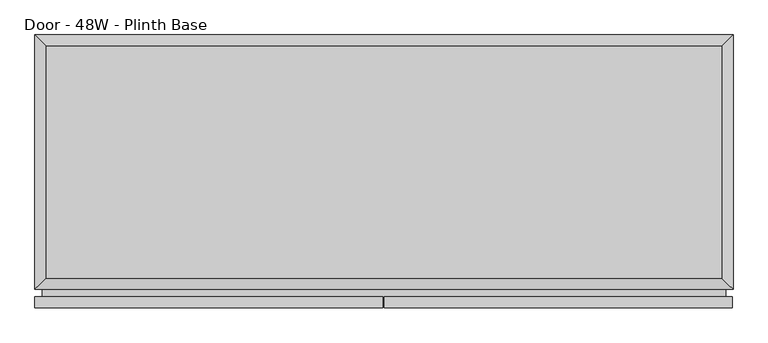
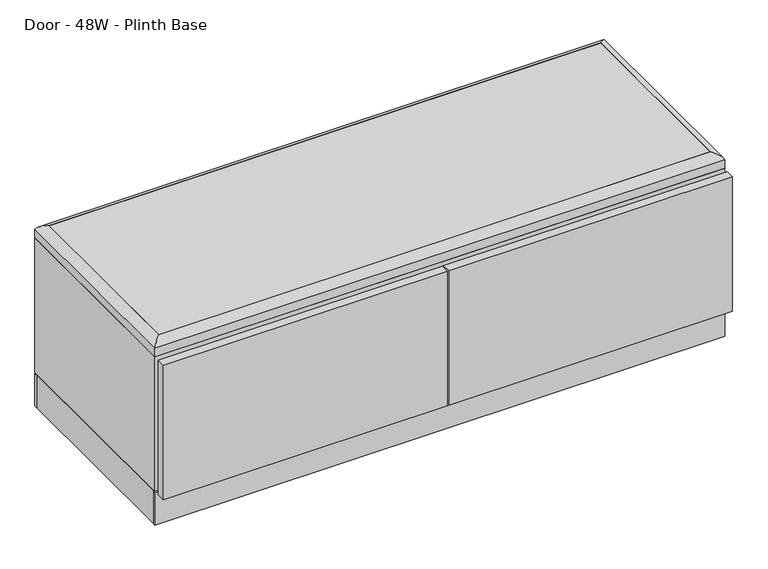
"""IFC4 building model written with IfcOpenShell, lengths in millimetres: furniture geometry, Steelcase Coalesse - Exponents - Seating - Bench : Door - 48W - Plinth Base."""

from ifc_helpers import new_model, si_unit, frame, origin, place, context, project, spatial, polyline, ellipse_curve, outline, extrude, faceted_brep, source, transform, mapped, element, save
from ifc_brep_helpers import plane_surface, cylinder_surface, advanced_brep


def door_48w_plinth_base_4b53b409(model_context):
    return source(origin(), model_context, "Body", "SolidModel", [
        extrude(outline(polyline([(1217.8284, 0.0), (1217.8284, -19.05), (610.4382, -19.05), (610.4382, 0.0), (1217.8284, 0.0)])), frame((0.0, 0.0, 82.55), z_axis=(0.0, 0.0, 1.0), x_axis=(1.0, 0.0, 0.0)), (0.0, 0.0, 1.0), 304.8),
        extrude(outline(polyline([(607.3902, 0.0), (607.3902, -19.05), (0.0, -19.05), (0.0, 0.0), (607.3902, 0.0)])), frame((0.0, 0.0, 82.55), z_axis=(0.0, 0.0, 1.0), x_axis=(1.0, 0.0, 0.0)), (0.0, 0.0, 1.0), 304.8),
        advanced_brep(
        [(0.0, 12.7, 406.6283237), (0.0, 12.7, 387.35), (1219.2, 12.7, 387.35), (1219.2, 12.7, 406.6283237), (1219.2, 457.2, 406.6283237), (1219.2, 457.2, 387.35), (0.0, 457.2, 387.35), (0.0, 457.2, 406.6283237), (1200.15, 31.75, 406.6283237), (1200.15, 438.15, 406.6283237), (19.05, 438.15, 406.6283237), (19.05, 31.75, 406.6283237), (1200.15, 438.15, 419.0696271), (1200.15, 31.75, 419.0696271), (19.05, 31.75, 419.0696271), (19.05, 438.15, 419.0696271)],
        [
            (0, 1),
            (1, 2),
            (2, 3),
            (3, 0),
            (4, 5),
            (5, 6),
            (6, 7),
            (7, 4),
            (8, 9),
            (9, 10),
            (10, 11),
            (11, 8),
            (0, 7),
            (6, 1),
            (5, 2),
            (4, 3),
            (12, 9),
            (8, 13),
            (13, 12),
            (13, 3, ellipse_curve(frame((1198.5973666, 33.3026334, 395.8870134), z_axis=(0.7071067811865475, 0.7071067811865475, 0.0), x_axis=(-0.7071067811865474, 0.7071067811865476, 0.0)), 32.8586138, 23.2345486)),
            (4, 12, ellipse_curve(frame((1198.5973666, 436.5973666, 395.8870134), z_axis=(0.7071067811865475, -0.7071067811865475, 0.0), x_axis=(0.7071067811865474, 0.7071067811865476, 0.0)), 32.8586138, 23.2345486)),
            (11, 14),
            (14, 13),
            (14, 0, ellipse_curve(frame((20.6026334, 33.3026334, 395.8870134), z_axis=(0.7071067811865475, -0.7071067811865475, 0.0), x_axis=(0.7071067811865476, 0.7071067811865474, 0.0)), 32.8586138, 23.2345486)),
            (10, 15),
            (15, 14),
            (15, 7, ellipse_curve(frame((20.6026334, 436.5973666, 395.8870134), z_axis=(-0.7071067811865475, -0.7071067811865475, 0.0), x_axis=(0.7071067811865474, -0.7071067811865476, 0.0)), 32.8586138, 23.2345486)),
            (12, 15),
        ],
        [
            plane_surface(frame((0.0, 12.7, 406.6283237), z_axis=(0.0, -1.0, 0.0), x_axis=(-1.0, 0.0, 0.0))),
            plane_surface(frame((0.0, 457.2, 406.6283237), z_axis=(0.0, 1.0, 0.0), x_axis=(1.0, 0.0, 0.0))),
            plane_surface(frame((1219.2, 12.7, 406.6283237), z_axis=(0.0, 0.0, 1.0), x_axis=(0.0, 1.0, 0.0))),
            plane_surface(frame((0.0, 12.7, 406.6283237), z_axis=(-1.0, 0.0, 1.9588398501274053e-12), x_axis=(0.0, 1.0, 0.0))),
            plane_surface(frame((0.0, 12.7, 387.35), z_axis=(0.0, 0.0, -1.0), x_axis=(0.0, 1.0, 0.0))),
            plane_surface(frame((1219.2, 12.7, 387.35), z_axis=(1.0, 0.0, 0.0), x_axis=(0.0, 1.0, 0.0))),
            plane_surface(frame((1200.15, 438.15, 406.6284102), z_axis=(-1.0, 0.0, 0.0), x_axis=(0.0, -1.0, 0.0))),
            cylinder_surface(frame((1198.5973666, 457.2, 395.8870134), z_axis=(0.0, 1.0, 0.0), x_axis=(1.0, 0.0, 0.0)), 23.2345486),
            plane_surface(frame((1200.15, 31.75, 406.6284102), z_axis=(0.0, 1.0, 0.0), x_axis=(-1.0, 0.0, 0.0))),
            cylinder_surface(frame((1219.2, 33.3026334, 395.8870134), z_axis=(1.0, 0.0, 0.0), x_axis=(0.0, -1.0, 0.0)), 23.2345486),
            plane_surface(frame((19.05, 31.75, 406.6284102), z_axis=(1.0, 0.0, 0.0), x_axis=(0.0, 1.0, 0.0))),
            cylinder_surface(frame((20.6026334, 12.7, 395.8870134), z_axis=(0.0, -1.0, 0.0), x_axis=(-1.0, 0.0, 0.0)), 23.2345486),
            plane_surface(frame((19.05, 438.15, 406.6284102), z_axis=(0.0, -1.0, 0.0), x_axis=(1.0, 0.0, 0.0))),
            cylinder_surface(frame((0.0, 436.5973666, 395.8870134), z_axis=(-1.0, 0.0, 0.0), x_axis=(0.0, 1.0, 0.0)), 23.2345486),
        ],
        [
            (0, [[1, 2, 3, 4]]),
            (1, [[5, 6, 7, 8]]),
            (2, [[9, 10, 11, 12]]),
            (3, [[-1, 13, -7, 14]]),
            (4, [[-2, -14, -6, 15]]),
            (5, [[-3, -15, -5, 16]]),
            (6, [[17, -9, 18, 19]]),
            (7, [[-19, 20, -16, 21]]),
            (8, [[-18, -12, 22, 23]]),
            (9, [[-20, -23, 24, -4]]),
            (10, [[-22, -11, 25, 26]]),
            (11, [[-24, -26, 27, -13]]),
            (12, [[-17, 28, -25, -10]]),
            (13, [[-21, -8, -27, -28]]),
        ],
    ),
        faceted_brep([(1219.2, 12.7, 387.35), (0.0, 12.7, 387.35), (0.0, 12.7, 82.55), (1219.2, 12.7, 82.55), (19.05, 12.7, 368.0968), (604.774, 12.7, 368.0968), (604.774, 12.7, 101.8032), (19.05, 12.7, 101.8032), (623.824, 12.7, 368.0968), (1200.15, 12.7, 368.0968), (1200.15, 12.7, 101.8032), (623.824, 12.7, 101.8032), (1219.2, 457.2, 387.35), (1219.2, 457.2, 82.55), (0.0, 457.2, 82.55), (0.0, 457.2, 387.35), (604.774, 438.15, 368.0968), (19.05, 438.15, 368.0968), (19.05, 438.15, 101.8032), (604.774, 438.15, 101.8032), (1200.15, 438.15, 368.0968), (623.824, 438.15, 368.0968), (623.824, 438.15, 101.8032), (1200.15, 438.15, 101.8032)], [[[0, 1, 2, 3], [4, 5, 6, 7], [8, 9, 10, 11]], [[12, 13, 14, 15]], [[1, 0, 12, 15]], [[2, 1, 15, 14]], [[3, 2, 14, 13]], [[0, 3, 13, 12]], [[16, 17, 18, 19]], [[20, 21, 22, 23]], [[17, 16, 5, 4]], [[18, 17, 4, 7]], [[19, 18, 7, 6]], [[16, 19, 6, 5]], [[21, 20, 9, 8]], [[22, 21, 8, 11]], [[23, 22, 11, 10]], [[20, 23, 10, 9]]]),
        extrude(outline(polyline([(1219.2, 457.2), (1219.2, 450.85), (0.0, 450.85), (0.0, 457.2), (1219.2, 457.2)])), frame((0.0, 0.0, 6.35), z_axis=(0.0, 0.0, 1.0), x_axis=(1.0, 0.0, 0.0)), (0.0, 0.0, 1.0), 73.4568),
        extrude(outline(polyline([(6.31225, 19.05), (0.0, 19.05), (0.0, 450.85), (6.31225, 450.85), (6.31225, 19.05)])), frame((0.0, 0.0, 6.35), z_axis=(0.0, 0.0, 1.0), x_axis=(1.0, 0.0, 0.0)), (0.0, 0.0, 1.0), 73.4568),
        extrude(outline(polyline([(1219.2, 19.05), (1219.2, 12.7), (0.0, 12.7), (0.0, 19.05), (1219.2, 19.05)])), frame((0.0, 0.0, 6.35), z_axis=(0.0, 0.0, 1.0), x_axis=(1.0, 0.0, 0.0)), (0.0, 0.0, 1.0), 73.4568),
        extrude(outline(polyline([(1219.2, 19.05), (1212.81225, 19.05), (1212.81225, 450.85), (1219.2, 450.85), (1219.2, 19.05)])), frame((0.0, 0.0, 6.35), z_axis=(0.0, 0.0, 1.0), x_axis=(1.0, 0.0, 0.0)), (0.0, 0.0, 1.0), 73.4568),
        extrude(outline(polyline([(1214.33625, 452.374), (1214.33625, 17.526), (4.78825, 17.526), (4.78825, 452.374), (1214.33625, 452.374)]), holes=[polyline([(6.31225, 19.05), (1212.81225, 19.05), (1212.81225, 450.85), (6.31225, 450.85), (6.31225, 19.05)])]), frame((0.0, 0.0, 79.8068), z_axis=(0.0, 0.0, 1.0), x_axis=(1.0, 0.0, 0.0)), (0.0, 0.0, 1.0), 2.7432),
        extrude(outline(polyline([(1200.15, 31.75), (19.05, 31.75), (19.05, 438.15), (1200.15, 438.15), (1200.15, 31.75)])), frame((0.0, 0.0, 406.6283237), z_axis=(0.0, 0.0, 1.0), x_axis=(1.0, 0.0, 0.0)), (0.0, 0.0, 1.0), 12.4413034),
        extrude(outline(polyline([(374.4468, 1206.2206), (374.4468, 12.7), (95.4532, 12.7), (95.4532, 1206.2206), (374.4468, 1206.2206)]), holes=[polyline([(368.0968, 623.824), (368.0968, 1200.15), (101.8032, 1200.15), (101.8032, 623.824), (368.0968, 623.824)]), polyline([(368.0968, 604.774), (101.8032, 604.774), (101.8032, 19.05), (368.0968, 19.05), (368.0968, 604.774)])]), frame((0.0, 0.0, 0.0), z_axis=(0.0, 1.0, 0.0), x_axis=(0.0, 0.0, 1.0)), (0.0, 0.0, 1.0), 12.7),
    ])


if __name__ == "__main__":
    model = new_model("IFC4")
    model_context = context("Model", 3, world=origin())
    ifc_project = project(units=[si_unit("LENGTHUNIT", "METRE", prefix="MILLI")], contexts=[model_context])
    site = spatial("IfcSite", under=ifc_project)
    building = spatial("IfcBuilding", under=site)
    placement = place(None, origin())
    door_48w_plinth_base_shape = door_48w_plinth_base_4b53b409(model_context)
    element("IfcFurniture", 1, ObjectType="Steelcase Coalesse - Exponents - Seating - Bench : Door - 48W - Plinth Base", at=placement, inside=building, context=model_context, shape_type="MappedRepresentation", body=[
        mapped(door_48w_plinth_base_shape, transform((0.0, 0.0, 0.0), x_axis=(1.0, 0.0, 0.0), y_axis=(0.0, 1.0, 0.0), z_axis=(0.0, 0.0, 1.0))),
    ])
    save(model, "model.ifc")
